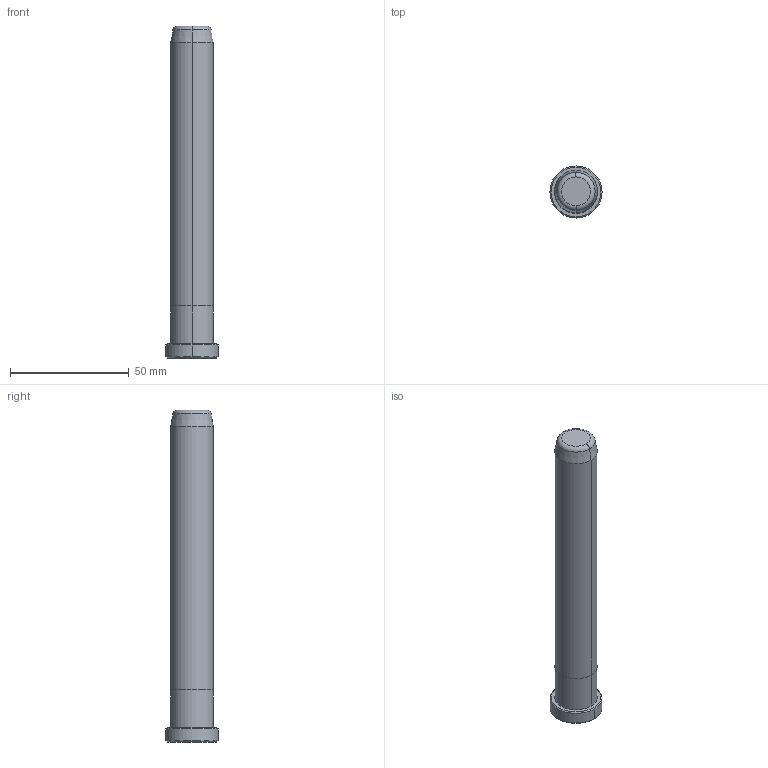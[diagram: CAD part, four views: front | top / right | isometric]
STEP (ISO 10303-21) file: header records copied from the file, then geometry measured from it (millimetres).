
FILE_DESCRIPTION((''),'2;1');
FILE_NAME('B82818140','2018-01-22T',('MANU'),(''),'PRO/ENGINEER BY PARAMETRIC TECHNOLOGY CORPORATION, 2012130','PRO/ENGINEER BY PARAMETRIC TECHNOLOGY CORPORATION, 2012130','');
FILE_SCHEMA(('CONFIG_CONTROL_DESIGN'));
Length unit declared in the file: millimetre
Products named in the file (1): B82818140
Bounding box: 22 x 22 x 140 mm (x, y, z)
Volume: 36112.1 mm3; surface area: 8597 mm2
Topology: 1 solids, 1 shells, 18 faces, 34 edges, 20 vertices
Faces by surface type: cone 6, cylinder 6, plane 4, torus 2
Entity records: 494 total; most frequent: DIRECTION 92, CARTESIAN_POINT 72, ORIENTED_EDGE 68, AXIS2_PLACEMENT_3D 40, EDGE_CURVE 34, CIRCLE 22, VERTEX_POINT 20, EDGE_LOOP 20
